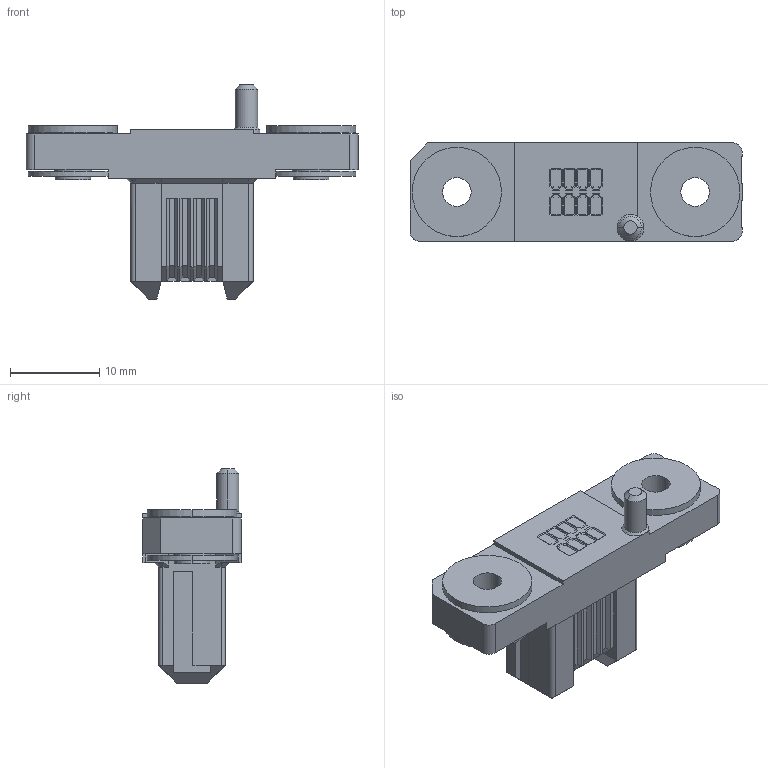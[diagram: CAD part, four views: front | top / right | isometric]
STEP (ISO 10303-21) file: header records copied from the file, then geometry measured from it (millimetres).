
FILE_DESCRIPTION(('CoCreate Modeling STEP Export'),'2;1');
FILE_NAME('P3C789_FAS01-008.stp','2017-07-28T15:01:02',(''),(''),'CoCreate Modeling STEP processor for AP214 (Solid Model)','CoCreate Modeling 17.0B 09-Oct-2010 (C) Parametric Technology GmbH','');
FILE_SCHEMA(('AUTOMOTIVE_DESIGN { 1 0 10303 214 1 1 1 1 }'));
Length unit declared in the file: millimetre
Products named in the file (2): FAS01-008
Assembly tree (1 placements, depth 2):
  FAS01-008
    FAS01-008
Bounding box: 37.2 x 11 x 24 mm (x, y, z)
Volume: 3093.4 mm3; surface area: 2620.7 mm2
Topology: 1 solids, 1 shells, 332 faces, 848 edges, 536 vertices
Faces by surface type: plane 290, cylinder 34, cone 8
Entity records: 9694 total; most frequent: ORIENTED_EDGE 1696, CARTESIAN_POINT 1688, DIRECTION 1539, EDGE_CURVE 848, VECTOR 765, LINE 765, VERTEX_POINT 536, AXIS2_PLACEMENT_3D 387
